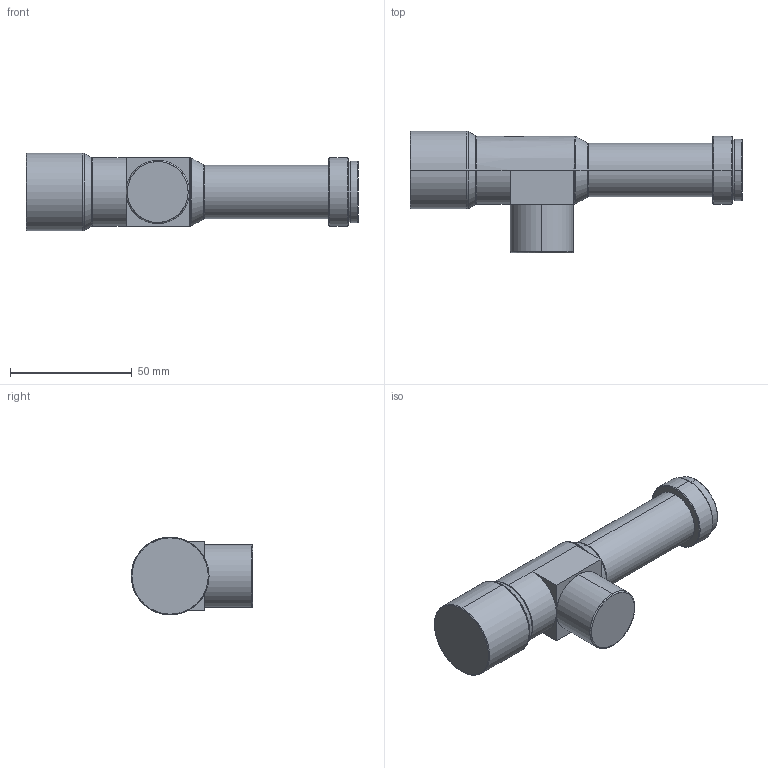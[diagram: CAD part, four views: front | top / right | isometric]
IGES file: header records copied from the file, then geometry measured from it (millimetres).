
Start section: SolidWorks IGES file using analytic representation for surfaces
Global section: file name: C:\Users\16255\Desktop\WWH20-108CTLV3.IGS; native system: SolidWorks 2017; preprocessor: SolidWorks 2017; author: 16255; date: 210909.160548; units: millimetre
Bounding box: 136.6 x 50 x 32 mm (x, y, z)
Surface area: 15158.2 mm2 (no closed solid volume)
Topology: 0 solids, 0 shells, 51 faces, 594 edges, 594 vertices
Faces by surface type: revolution 27, bspline 24
